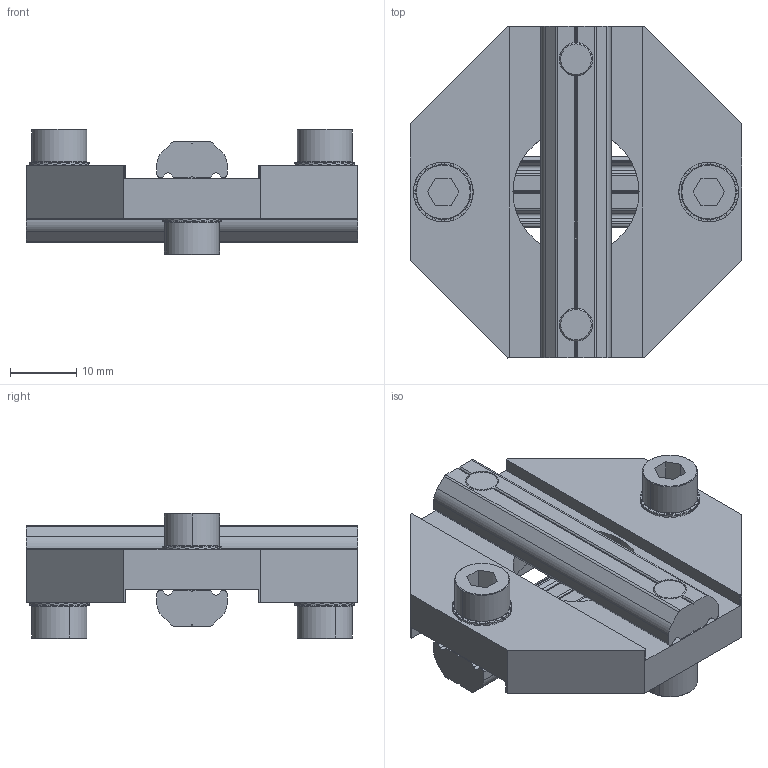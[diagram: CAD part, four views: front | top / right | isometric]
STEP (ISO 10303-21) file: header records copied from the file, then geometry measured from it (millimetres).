
FILE_DESCRIPTION (( 'STEP AP214' ), '1' );
FILE_NAME ('SMBA-2020T.STEP', '2020-01-09T08:51:55', ( '微软用户' ), ( '微软中国' ), 'SwSTEP 2.0', 'SolidWorks 2016', '' );
FILE_SCHEMA (( 'AUTOMOTIVE_DESIGN' ));
Length unit declared in the file: millimetre
Products named in the file (1): SMBA-2020T
Bounding box: 50 x 50 x 18.9 mm (x, y, z)
Volume: 17288.2 mm3; surface area: 11357.2 mm2
Topology: 11 solids, 11 shells, 868 faces, 2544 edges, 1690 vertices
Faces by surface type: plane 758, cylinder 86, cone 24
Entity records: 38977 total; most frequent: CARTESIAN_POINT 5538, ORIENTED_EDGE 5088, DIRECTION 5035, EDGE_CURVE 2544, VERTEX_POINT 1690, AXIS2_PLACEMENT_3D 1689, LINE 1657, VECTOR 1657
